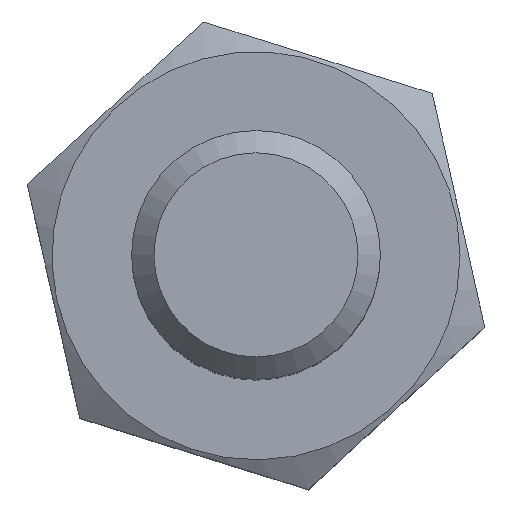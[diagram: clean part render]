
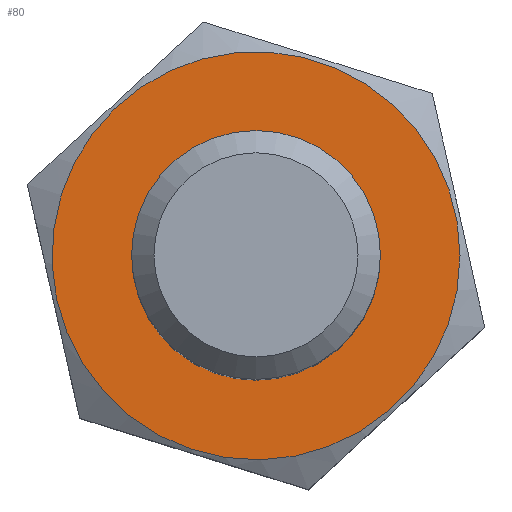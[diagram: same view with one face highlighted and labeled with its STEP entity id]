
A CAD part, top view. The second image highlights one B-rep face of the part: STEP entity #80.
In plain terms, the highlighted planar face has unit normal (0, 0, 1).
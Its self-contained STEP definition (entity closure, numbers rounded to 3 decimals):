
#80=ADVANCED_FACE('',(#106,#107),#96,.T.);
#96=PLANE('',#255);
#106=FACE_BOUND('',#122,.T.);
#107=FACE_BOUND('',#123,.T.);
#122=EDGE_LOOP('',(#146));
#123=EDGE_LOOP('',(#147));
#146=ORIENTED_EDGE('',*,*,#218,.F.);
#147=ORIENTED_EDGE('',*,*,#219,.T.);
#198=VERTEX_POINT('',#335);
#199=VERTEX_POINT('',#337);
#218=EDGE_CURVE('',#198,#198,#244,.T.);
#219=EDGE_CURVE('',#199,#199,#245,.T.);
#244=CIRCLE('',#253,3.897);
#245=CIRCLE('',#254,6.389);
#253=AXIS2_PLACEMENT_3D('',#334,#279,#280);
#254=AXIS2_PLACEMENT_3D('',#336,#281,#282);
#255=AXIS2_PLACEMENT_3D('',#338,#283,#284);
#279=DIRECTION('',(0.,0.,1.));
#280=DIRECTION('',(1.,0.,0.));
#281=DIRECTION('',(0.,0.,1.));
#282=DIRECTION('',(1.,0.,0.));
#283=DIRECTION('',(0.,0.,1.));
#284=DIRECTION('',(1.,0.,0.));
#334=CARTESIAN_POINT('',(0.,0.,6.5));
#335=CARTESIAN_POINT('',(3.897,0.,6.5));
#336=CARTESIAN_POINT('',(0.,0.,6.5));
#337=CARTESIAN_POINT('',(6.389,0.,6.5));
#338=CARTESIAN_POINT('',(0.,0.,6.5));
